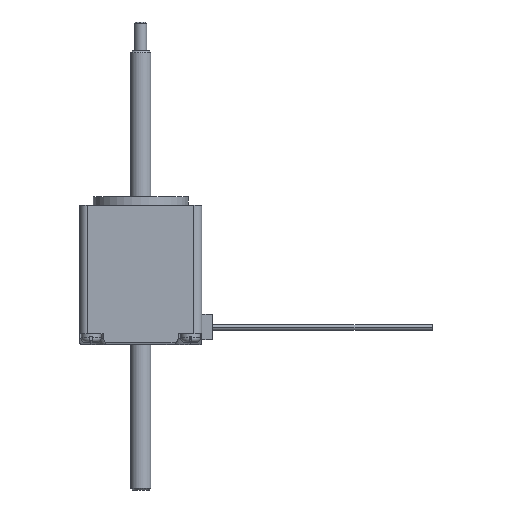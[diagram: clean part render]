
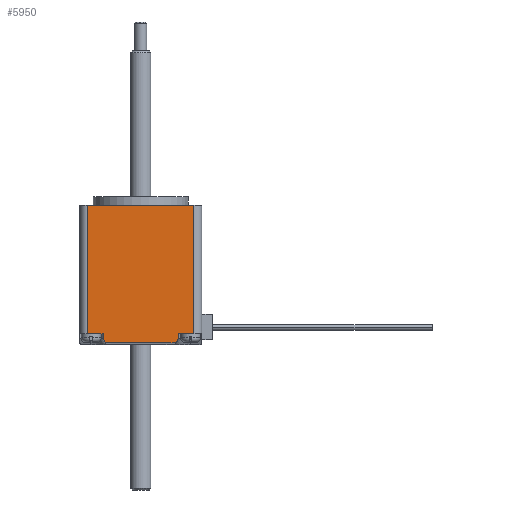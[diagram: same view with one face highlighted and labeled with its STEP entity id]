
A CAD part, front view. The second image highlights one B-rep face of the part: STEP entity #5950.
In plain terms, the highlighted planar face has unit normal (0, -1, 0).
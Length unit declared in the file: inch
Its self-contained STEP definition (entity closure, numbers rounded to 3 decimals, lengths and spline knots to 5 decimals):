
#115 = VERTEX_POINT ( 'NONE', #326 ) ;
#130 = EDGE_LOOP ( 'NONE', ( #751, #6109, #6488, #962, #5130, #3063, #5498, #4238, #6830, #769 ) ) ;
#326 = CARTESIAN_POINT ( 'NONE',  ( -0.343, -0.555, 0.1 ) ) ;
#412 = EDGE_CURVE ( 'NONE', #1934, #3594, #880, .T. ) ;
#458 = VERTEX_POINT ( 'NONE', #4570 ) ;
#535 = DIRECTION ( 'NONE',  ( -1., 0., 0. ) ) ;
#602 = LINE ( 'NONE', #2852, #2984 ) ;
#637 = DIRECTION ( 'NONE',  ( 0., 0., -1. ) ) ;
#751 = ORIENTED_EDGE ( 'NONE', *, *, #2308, .T. ) ;
#769 = ORIENTED_EDGE ( 'NONE', *, *, #4978, .T. ) ;
#823 = EDGE_CURVE ( 'NONE', #930, #1485, #3264, .T. ) ;
#862 = EDGE_CURVE ( 'NONE', #3337, #458, #602, .T. ) ;
#880 = LINE ( 'NONE', #5996, #6424 ) ;
#930 = VERTEX_POINT ( 'NONE', #6845 ) ;
#962 = ORIENTED_EDGE ( 'NONE', *, *, #862, .F. ) ;
#988 = EDGE_CURVE ( 'NONE', #930, #5203, #3779, .T. ) ;
#1022 = CARTESIAN_POINT ( 'NONE',  ( -0.343, -0.555, 0.1 ) ) ;
#1159 = CARTESIAN_POINT ( 'NONE',  ( -0.485, -0.555, 1.268 ) ) ;
#1346 = LINE ( 'NONE', #5874, #2454 ) ;
#1353 = EDGE_CURVE ( 'NONE', #115, #2795, #6035, .T. ) ;
#1463 = VECTOR ( 'NONE', #4025, 39.37008 ) ;
#1485 = VERTEX_POINT ( 'NONE', #5027 ) ;
#1506 = CARTESIAN_POINT ( 'NONE',  ( 0.32166, -0.555, 0.015 ) ) ;
#1584 = CARTESIAN_POINT ( 'NONE',  ( -0.343, -0.555, 0.1 ) ) ;
#1674 = DIRECTION ( 'NONE',  ( 0., 0., -1. ) ) ;
#1748 = LINE ( 'NONE', #3999, #6697 ) ;
#1934 = VERTEX_POINT ( 'NONE', #1506 ) ;
#2073 = CARTESIAN_POINT ( 'NONE',  ( 0.343, -0.555, 0.05196 ) ) ;
#2156 = VECTOR ( 'NONE', #6470, 39.37008 ) ;
#2308 = EDGE_CURVE ( 'NONE', #4601, #1934, #5179, .T. ) ;
#2331 = AXIS2_PLACEMENT_3D ( 'NONE', #4732, #7050, #6483 ) ;
#2454 = VECTOR ( 'NONE', #6482, 39.37008 ) ;
#2739 = VECTOR ( 'NONE', #1674, 39.37008 ) ;
#2795 = VERTEX_POINT ( 'NONE', #6448 ) ;
#2852 = CARTESIAN_POINT ( 'NONE',  ( 0.555, -0.555, 0.1 ) ) ;
#2877 = CARTESIAN_POINT ( 'NONE',  ( -0.555, -0.555, 0.015 ) ) ;
#2984 = VECTOR ( 'NONE', #5123, 39.37008 ) ;
#3063 = ORIENTED_EDGE ( 'NONE', *, *, #988, .F. ) ;
#3264 = LINE ( 'NONE', #1159, #2739 ) ;
#3292 = EDGE_CURVE ( 'NONE', #458, #3594, #1748, .T. ) ;
#3337 = VERTEX_POINT ( 'NONE', #4499 ) ;
#3548 = CARTESIAN_POINT ( 'NONE',  ( -0.32166, -0.555, 0.015 ) ) ;
#3594 = VERTEX_POINT ( 'NONE', #2073 ) ;
#3685 = DIRECTION ( 'NONE',  ( 0., 0., -1. ) ) ;
#3759 = EDGE_CURVE ( 'NONE', #3337, #5203, #4754, .T. ) ;
#3762 = DIRECTION ( 'NONE',  ( 0.5, 0., 0.866 ) ) ;
#3779 = LINE ( 'NONE', #4340, #2156 ) ;
#3835 = VECTOR ( 'NONE', #4798, 39.37008 ) ;
#3999 = CARTESIAN_POINT ( 'NONE',  ( 0.343, -0.555, 0.1 ) ) ;
#4025 = DIRECTION ( 'NONE',  ( 1., 0., 0. ) ) ;
#4081 = CARTESIAN_POINT ( 'NONE',  ( 0.485, -0.555, 1.268 ) ) ;
#4238 = ORIENTED_EDGE ( 'NONE', *, *, #6072, .F. ) ;
#4340 = CARTESIAN_POINT ( 'NONE',  ( -0.555, -0.555, 1.268 ) ) ;
#4499 = CARTESIAN_POINT ( 'NONE',  ( 0.485, -0.555, 0.1 ) ) ;
#4570 = CARTESIAN_POINT ( 'NONE',  ( 0.343, -0.555, 0.1 ) ) ;
#4601 = VERTEX_POINT ( 'NONE', #3548 ) ;
#4732 = CARTESIAN_POINT ( 'NONE',  ( -0.555, -0.555, 1.268 ) ) ;
#4754 = LINE ( 'NONE', #4081, #3835 ) ;
#4762 = PLANE ( 'NONE',  #2331 ) ;
#4798 = DIRECTION ( 'NONE',  ( 0., 0., 1. ) ) ;
#4953 = LINE ( 'NONE', #1022, #5903 ) ;
#4978 = EDGE_CURVE ( 'NONE', #2795, #4601, #1346, .T. ) ;
#5027 = CARTESIAN_POINT ( 'NONE',  ( -0.485, -0.555, 0.1 ) ) ;
#5123 = DIRECTION ( 'NONE',  ( -1., 0., 0. ) ) ;
#5130 = ORIENTED_EDGE ( 'NONE', *, *, #3759, .T. ) ;
#5179 = LINE ( 'NONE', #2877, #1463 ) ;
#5203 = VERTEX_POINT ( 'NONE', #5857 ) ;
#5498 = ORIENTED_EDGE ( 'NONE', *, *, #823, .T. ) ;
#5857 = CARTESIAN_POINT ( 'NONE',  ( 0.485, -0.555, 1.268 ) ) ;
#5874 = CARTESIAN_POINT ( 'NONE',  ( -0.343, -0.555, 0.05196 ) ) ;
#5903 = VECTOR ( 'NONE', #535, 39.37008 ) ;
#5949 = FACE_OUTER_BOUND ( 'NONE', #130, .T. ) ;
#5950 = ADVANCED_FACE ( 'NONE', ( #5949 ), #4762, .F. ) ;
#5996 = CARTESIAN_POINT ( 'NONE',  ( 0.343, -0.555, 0.05196 ) ) ;
#6035 = LINE ( 'NONE', #1584, #6563 ) ;
#6072 = EDGE_CURVE ( 'NONE', #115, #1485, #4953, .T. ) ;
#6109 = ORIENTED_EDGE ( 'NONE', *, *, #412, .T. ) ;
#6424 = VECTOR ( 'NONE', #3762, 39.37008 ) ;
#6448 = CARTESIAN_POINT ( 'NONE',  ( -0.343, -0.555, 0.05196 ) ) ;
#6470 = DIRECTION ( 'NONE',  ( 1., 0., 0. ) ) ;
#6482 = DIRECTION ( 'NONE',  ( 0.5, 0., -0.866 ) ) ;
#6483 = DIRECTION ( 'NONE',  ( 0., 0., 1. ) ) ;
#6488 = ORIENTED_EDGE ( 'NONE', *, *, #3292, .F. ) ;
#6563 = VECTOR ( 'NONE', #3685, 39.37008 ) ;
#6697 = VECTOR ( 'NONE', #637, 39.37008 ) ;
#6830 = ORIENTED_EDGE ( 'NONE', *, *, #1353, .T. ) ;
#6845 = CARTESIAN_POINT ( 'NONE',  ( -0.485, -0.555, 1.268 ) ) ;
#7050 = DIRECTION ( 'NONE',  ( 0., 1., 0. ) ) ;
